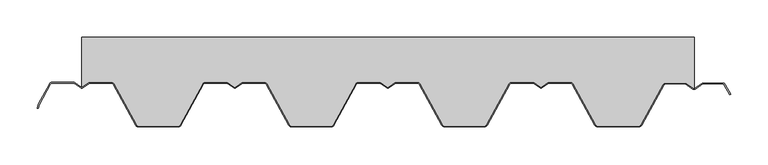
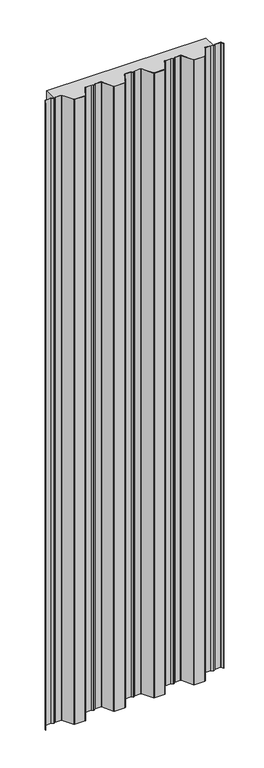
"""IFC4 building model written with IfcOpenShell, lengths in millimetres: plate geometry, HIANSA- H20.F10.001 - FORJADO COLABORANTE - MT-60 - Panel de Muro Cortina : -."""

from ifc_helpers import new_model, si_unit, point, frame_2d, origin, origin_with_axes, place, context, project, spatial, polyline, circle_curve, trimmed, segment, composite_curve, outline, extrude, source, transform, mapped, element, save


def plate_d779454f(model_context):
    return source(origin(), model_context, "Body", "SweptSolid", [
        extrude(outline(composite_curve([segment(polyline([(368.1728936, 56.6163306), (338.6988371, 2.7597639)]), True, "CONTINUOUS"), segment(trimmed(circle_curve(frame_2d((336.0671609, 4.2)), 3.0), [point((338.6988371, 2.7597639))], [point((336.0671609, 1.2))], False, "CARTESIAN"), True, "CONTINUOUS"), segment(polyline([(336.0671609, 1.2), (280.9575116, 1.2)]), True, "CONTINUOUS"), segment(trimmed(circle_curve(frame_2d((280.9575116, 4.2)), 3.0), [point((280.9575116, 1.2))], [point((278.3258353, 2.7597639))], False, "CARTESIAN"), True, "CONTINUOUS"), segment(polyline([(278.3258353, 2.7597639), (248.1950555, 57.8163306)]), True, "CONTINUOUS"), segment(trimmed(circle_curve(frame_2d((244.5107088, 55.8)), 4.2), [point((248.1950555, 57.8163306))], [point((244.5107088, 60.0))], True, "CARTESIAN"), True, "CONTINUOUS"), segment(polyline([(244.5107088, 60.0), (214.9999998, 60.0), (205.5734622, 53.4014236)]), True, "CONTINUOUS"), segment(trimmed(circle_curve(frame_2d((204.9999998, 54.2206556)), 1.0), [point((205.5734622, 53.4014236))], [point((204.4265375, 53.4014236))], False, "CARTESIAN"), True, "CONTINUOUS"), segment(polyline([(204.4265375, 53.4014236), (194.9999998, 60.0), (165.4892909, 60.0)]), True, "CONTINUOUS"), segment(trimmed(circle_curve(frame_2d((165.4892909, 55.8)), 4.2), [point((165.4892909, 60.0))], [point((161.8049442, 57.8163306))], True, "CARTESIAN"), True, "CONTINUOUS"), segment(polyline([(161.8049442, 57.8163306), (131.6741643, 2.7597639)]), True, "CONTINUOUS"), segment(trimmed(circle_curve(frame_2d((129.0424881, 4.2)), 3.0), [point((131.6741643, 2.7597639))], [point((129.0424881, 1.2))], False, "CARTESIAN"), True, "CONTINUOUS"), segment(polyline([(129.0424881, 1.2), (75.9575116, 1.2)]), True, "CONTINUOUS"), segment(trimmed(circle_curve(frame_2d((75.9575116, 4.2)), 3.0), [point((75.9575116, 1.2))], [point((73.3258353, 2.7597639))], False, "CARTESIAN"), True, "CONTINUOUS"), segment(polyline([(73.3258353, 2.7597639), (43.1950555, 57.8163306)]), True, "CONTINUOUS"), segment(trimmed(circle_curve(frame_2d((39.5107088, 55.8)), 4.2), [point((43.1950555, 57.8163306))], [point((39.5107088, 60.0))], True, "CARTESIAN"), True, "CONTINUOUS"), segment(polyline([(39.5107088, 60.0), (9.9999998, 60.0), (0.5734622, 53.4014236)]), True, "CONTINUOUS"), segment(trimmed(circle_curve(frame_2d((-2e-07, 54.2206556)), 1.0), [point((0.5734622, 53.4014236))], [point((-0.5734625, 53.4014236))], False, "CARTESIAN"), True, "CONTINUOUS"), segment(polyline([(-0.5734625, 53.4014236), (-10.0000002, 60.0), (-39.5107091, 60.0)]), True, "CONTINUOUS"), segment(trimmed(circle_curve(frame_2d((-39.5107091, 55.8)), 4.2), [point((-39.5107091, 60.0))], [point((-43.1950558, 57.8163306))], True, "CARTESIAN"), True, "CONTINUOUS"), segment(polyline([(-43.1950558, 57.8163306), (-73.3258357, 2.7597639)]), True, "CONTINUOUS"), segment(trimmed(circle_curve(frame_2d((-75.9575119, 4.2)), 3.0), [point((-73.3258357, 2.7597639))], [point((-75.9575119, 1.2))], False, "CARTESIAN"), True, "CONTINUOUS"), segment(polyline([(-75.9575119, 1.2), (-129.0424884, 1.2)]), True, "CONTINUOUS"), segment(trimmed(circle_curve(frame_2d((-129.0424884, 4.2)), 3.0), [point((-129.0424884, 1.2))], [point((-131.6741647, 2.7597639))], False, "CARTESIAN"), True, "CONTINUOUS"), segment(polyline([(-131.6741647, 2.7597639), (-161.8049445, 57.8163306)]), True, "CONTINUOUS"), segment(trimmed(circle_curve(frame_2d((-165.4892912, 55.8)), 4.2), [point((-161.8049445, 57.8163306))], [point((-165.4892912, 60.0))], True, "CARTESIAN"), True, "CONTINUOUS"), segment(polyline([(-165.4892912, 60.0), (-195.0000002, 60.0), (-204.4265378, 53.4014236)]), True, "CONTINUOUS"), segment(trimmed(circle_curve(frame_2d((-205.0000002, 54.2206556)), 1.0), [point((-204.4265378, 53.4014236))], [point((-205.5734625, 53.4014236))], False, "CARTESIAN"), True, "CONTINUOUS"), segment(polyline([(-205.5734625, 53.4014236), (-215.0000002, 60.0), (-244.5107091, 60.0)]), True, "CONTINUOUS"), segment(trimmed(circle_curve(frame_2d((-244.5107091, 55.8)), 4.2), [point((-244.5107091, 60.0))], [point((-248.1950558, 57.8163306))], True, "CARTESIAN"), True, "CONTINUOUS"), segment(polyline([(-248.1950558, 57.8163306), (-278.3258357, 2.7597639)]), True, "CONTINUOUS"), segment(trimmed(circle_curve(frame_2d((-280.9575119, 4.2)), 3.0), [point((-278.3258357, 2.7597639))], [point((-280.9575119, 1.2))], False, "CARTESIAN"), True, "CONTINUOUS"), segment(polyline([(-280.9575119, 1.2), (-334.0424884, 1.2)]), True, "CONTINUOUS"), segment(trimmed(circle_curve(frame_2d((-334.0424884, 4.2)), 3.0), [point((-334.0424884, 1.2))], [point((-336.6741647, 2.7597639))], False, "CARTESIAN"), True, "CONTINUOUS"), segment(polyline([(-336.6741647, 2.7597639), (-366.8049445, 57.8163306)]), True, "CONTINUOUS"), segment(trimmed(circle_curve(frame_2d((-370.4892912, 55.8)), 4.2), [point((-366.8049445, 57.8163306))], [point((-370.4892912, 60.0))], True, "CARTESIAN"), True, "CONTINUOUS"), segment(polyline([(-370.4892912, 60.0), (-400.0000002, 60.0), (-410.0000002, 53.0), (-410.0000002, 120.0), (409.9999998, 120.0), (409.9999998, 50.9943673), (398.849096, 58.8), (371.8572403, 58.8)]), True, "CONTINUOUS"), segment(trimmed(circle_curve(frame_2d((371.8572403, 54.6)), 4.2), [point((371.8572403, 58.8))], [point((368.1728936, 56.6163306))], True, "CARTESIAN"), True, "CONTINUOUS")], self_intersect=False)), origin_with_axes(), (0.0, 0.0, 1.0), 3390.8509027),
        extrude(outline(composite_curve([segment(trimmed(circle_curve(frame_2d((-449.5107091, 55.8)), 3.0), [point((-449.5107091, 58.8))], [point((-452.1423853, 57.2402361))], True, "CARTESIAN"), True, "CONTINUOUS"), segment(polyline([(-452.1423853, 57.2402361), (-467.1634429, 29.7929592), (-468.3384963, 24.9692365), (-469.5044021, 25.2532499), (-468.2919577, 30.2304669), (-453.1950558, 57.8163306)]), True, "CONTINUOUS"), segment(trimmed(circle_curve(frame_2d((-449.5107091, 55.8)), 4.2), [point((-453.1950558, 57.8163306))], [point((-449.5107091, 60.0))], False, "CARTESIAN"), True, "CONTINUOUS"), segment(polyline([(-449.5107091, 60.0), (-420.0000002, 60.0), (-410.5734625, 53.4014236)]), True, "CONTINUOUS"), segment(trimmed(circle_curve(frame_2d((-410.0000002, 54.2206556)), 1.0), [point((-410.5734625, 53.4014236))], [point((-409.4265378, 53.4014236))], True, "CARTESIAN"), True, "CONTINUOUS"), segment(polyline([(-409.4265378, 53.4014236), (-400.0000002, 60.0), (-370.4892912, 60.0)]), True, "CONTINUOUS"), segment(trimmed(circle_curve(frame_2d((-370.4892912, 55.8)), 4.2), [point((-370.4892912, 60.0))], [point((-366.8049445, 57.8163306))], False, "CARTESIAN"), True, "CONTINUOUS"), segment(polyline([(-366.8049445, 57.8163306), (-336.6741647, 2.7597639)]), True, "CONTINUOUS"), segment(trimmed(circle_curve(frame_2d((-334.0424884, 4.2)), 3.0), [point((-336.6741647, 2.7597639))], [point((-334.0424884, 1.2))], True, "CARTESIAN"), True, "CONTINUOUS"), segment(polyline([(-334.0424884, 1.2), (-280.9575119, 1.2)]), True, "CONTINUOUS"), segment(trimmed(circle_curve(frame_2d((-280.9575119, 4.2)), 3.0), [point((-280.9575119, 1.2))], [point((-278.3258357, 2.7597639))], True, "CARTESIAN"), True, "CONTINUOUS"), segment(polyline([(-278.3258357, 2.7597639), (-248.1950558, 57.8163306)]), True, "CONTINUOUS"), segment(trimmed(circle_curve(frame_2d((-244.5107091, 55.8)), 4.2), [point((-248.1950558, 57.8163306))], [point((-244.5107091, 60.0))], False, "CARTESIAN"), True, "CONTINUOUS"), segment(polyline([(-244.5107091, 60.0), (-215.0000002, 60.0), (-205.5734625, 53.4014236)]), True, "CONTINUOUS"), segment(trimmed(circle_curve(frame_2d((-205.0000002, 54.2206556)), 1.0), [point((-205.5734625, 53.4014236))], [point((-204.4265378, 53.4014236))], True, "CARTESIAN"), True, "CONTINUOUS"), segment(polyline([(-204.4265378, 53.4014236), (-195.0000002, 60.0), (-165.4892912, 60.0)]), True, "CONTINUOUS"), segment(trimmed(circle_curve(frame_2d((-165.4892912, 55.8)), 4.2), [point((-165.4892912, 60.0))], [point((-161.8049445, 57.8163306))], False, "CARTESIAN"), True, "CONTINUOUS"), segment(polyline([(-161.8049445, 57.8163306), (-131.6741647, 2.7597639)]), True, "CONTINUOUS"), segment(trimmed(circle_curve(frame_2d((-129.0424884, 4.2)), 3.0), [point((-131.6741647, 2.7597639))], [point((-129.0424884, 1.2))], True, "CARTESIAN"), True, "CONTINUOUS"), segment(polyline([(-129.0424884, 1.2), (-75.9575119, 1.2)]), True, "CONTINUOUS"), segment(trimmed(circle_curve(frame_2d((-75.9575119, 4.2)), 3.0), [point((-75.9575119, 1.2))], [point((-73.3258357, 2.7597639))], True, "CARTESIAN"), True, "CONTINUOUS"), segment(polyline([(-73.3258357, 2.7597639), (-43.1950558, 57.8163306)]), True, "CONTINUOUS"), segment(trimmed(circle_curve(frame_2d((-39.5107091, 55.8)), 4.2), [point((-43.1950558, 57.8163306))], [point((-39.5107091, 60.0))], False, "CARTESIAN"), True, "CONTINUOUS"), segment(polyline([(-39.5107091, 60.0), (-10.0000002, 60.0), (-0.5734625, 53.4014236)]), True, "CONTINUOUS"), segment(trimmed(circle_curve(frame_2d((-2e-07, 54.2206556)), 1.0), [point((-0.5734625, 53.4014236))], [point((0.5734622, 53.4014236))], True, "CARTESIAN"), True, "CONTINUOUS"), segment(polyline([(0.5734622, 53.4014236), (9.9999998, 60.0), (39.5107088, 60.0)]), True, "CONTINUOUS"), segment(trimmed(circle_curve(frame_2d((39.5107088, 55.8)), 4.2), [point((39.5107088, 60.0))], [point((43.1950555, 57.8163306))], False, "CARTESIAN"), True, "CONTINUOUS"), segment(polyline([(43.1950555, 57.8163306), (73.3258353, 2.7597639)]), True, "CONTINUOUS"), segment(trimmed(circle_curve(frame_2d((75.9575116, 4.2)), 3.0), [point((73.3258353, 2.7597639))], [point((75.9575116, 1.2))], True, "CARTESIAN"), True, "CONTINUOUS"), segment(polyline([(75.9575116, 1.2), (129.0424881, 1.2)]), True, "CONTINUOUS"), segment(trimmed(circle_curve(frame_2d((129.0424881, 4.2)), 3.0), [point((129.0424881, 1.2))], [point((131.6741643, 2.7597639))], True, "CARTESIAN"), True, "CONTINUOUS"), segment(polyline([(131.6741643, 2.7597639), (161.8049442, 57.8163306)]), True, "CONTINUOUS"), segment(trimmed(circle_curve(frame_2d((165.4892909, 55.8)), 4.2), [point((161.8049442, 57.8163306))], [point((165.4892909, 60.0))], False, "CARTESIAN"), True, "CONTINUOUS"), segment(polyline([(165.4892909, 60.0), (194.9999998, 60.0), (204.4265375, 53.4014236)]), True, "CONTINUOUS"), segment(trimmed(circle_curve(frame_2d((204.9999998, 54.2206556)), 1.0), [point((204.4265375, 53.4014236))], [point((205.5734622, 53.4014236))], True, "CARTESIAN"), True, "CONTINUOUS"), segment(polyline([(205.5734622, 53.4014236), (214.9999998, 60.0), (244.5107088, 60.0)]), True, "CONTINUOUS"), segment(trimmed(circle_curve(frame_2d((244.5107088, 55.8)), 4.2), [point((244.5107088, 60.0))], [point((248.1950555, 57.8163306))], False, "CARTESIAN"), True, "CONTINUOUS"), segment(polyline([(248.1950555, 57.8163306), (278.3258353, 2.7597639)]), True, "CONTINUOUS"), segment(trimmed(circle_curve(frame_2d((280.9575116, 4.2)), 3.0), [point((278.3258353, 2.7597639))], [point((280.9575116, 1.2))], True, "CARTESIAN"), True, "CONTINUOUS"), segment(polyline([(280.9575116, 1.2), (336.0671609, 1.2)]), True, "CONTINUOUS"), segment(trimmed(circle_curve(frame_2d((336.0671609, 4.2)), 3.0), [point((336.0671609, 1.2))], [point((338.6988371, 2.7597639))], True, "CARTESIAN"), True, "CONTINUOUS"), segment(polyline([(338.6988371, 2.7597639), (368.1728936, 56.6163306)]), True, "CONTINUOUS"), segment(trimmed(circle_curve(frame_2d((371.8572403, 54.6)), 4.2), [point((368.1728936, 56.6163306))], [point((371.8572403, 58.8))], False, "CARTESIAN"), True, "CONTINUOUS"), segment(polyline([(371.8572403, 58.8), (398.849096, 58.8), (409.0480523, 51.6607306)]), True, "CONTINUOUS"), segment(trimmed(circle_curve(frame_2d((409.9999998, 53.0206556)), 1.66), [point((409.0480523, 51.6607306))], [point((410.9519473, 51.6607306))], True, "CARTESIAN"), True, "CONTINUOUS"), segment(polyline([(410.9519473, 51.6607306), (421.1509036, 58.8), (448.1427593, 58.8)]), True, "CONTINUOUS"), segment(trimmed(circle_curve(frame_2d((448.1427593, 54.6)), 4.2), [point((448.1427593, 58.8))], [point((451.8271061, 56.6163306))], False, "CARTESIAN"), True, "CONTINUOUS"), segment(polyline([(451.8271061, 56.6163306), (459.0334279, 43.4485553), (457.9807574, 42.8724608), (450.7744356, 56.0402361)]), True, "CONTINUOUS"), segment(trimmed(circle_curve(frame_2d((448.1427593, 54.6)), 3.0), [point((450.7744356, 56.0402361))], [point((448.1427593, 57.6))], True, "CARTESIAN"), True, "CONTINUOUS"), segment(polyline([(448.1427593, 57.6), (421.5291703, 57.6), (411.6401021, 50.6776523)]), True, "CONTINUOUS"), segment(trimmed(circle_curve(frame_2d((409.9999998, 53.0206556)), 2.86), [point((411.6401021, 50.6776523))], [point((408.3598975, 50.6776523))], False, "CARTESIAN"), True, "CONTINUOUS"), segment(polyline([(408.3598975, 50.6776523), (398.4708293, 57.6), (371.8572403, 57.6)]), True, "CONTINUOUS"), segment(trimmed(circle_curve(frame_2d((371.8572403, 54.6)), 3.0), [point((371.8572403, 57.6))], [point((369.2255641, 56.0402361))], True, "CARTESIAN"), True, "CONTINUOUS"), segment(polyline([(369.2255641, 56.0402361), (339.7515076, 2.1836694)]), True, "CONTINUOUS"), segment(trimmed(circle_curve(frame_2d((336.0671609, 4.2)), 4.2), [point((339.7515076, 2.1836694))], [point((336.0671609, 0.0))], False, "CARTESIAN"), True, "CONTINUOUS"), segment(polyline([(336.0671609, 0.0), (280.9575116, 0.0)]), True, "CONTINUOUS"), segment(trimmed(circle_curve(frame_2d((280.9575116, 4.2)), 4.2), [point((280.9575116, 0.0))], [point((277.2731648, 2.1836694))], False, "CARTESIAN"), True, "CONTINUOUS"), segment(polyline([(277.2731648, 2.1836694), (247.142385, 57.2402361)]), True, "CONTINUOUS"), segment(trimmed(circle_curve(frame_2d((244.5107088, 55.8)), 3.0), [point((247.142385, 57.2402361))], [point((244.5107088, 58.8))], True, "CARTESIAN"), True, "CONTINUOUS"), segment(polyline([(244.5107088, 58.8), (215.3782665, 58.8), (206.261617, 52.4183453)]), True, "CONTINUOUS"), segment(trimmed(circle_curve(frame_2d((204.9999998, 54.2206556)), 2.2), [point((206.261617, 52.4183453))], [point((203.7383827, 52.4183453))], False, "CARTESIAN"), True, "CONTINUOUS"), segment(polyline([(203.7383827, 52.4183453), (194.6217332, 58.8), (165.4892909, 58.8)]), True, "CONTINUOUS"), segment(trimmed(circle_curve(frame_2d((165.4892909, 55.8)), 3.0), [point((165.4892909, 58.8))], [point((162.8576147, 57.2402361))], True, "CARTESIAN"), True, "CONTINUOUS"), segment(polyline([(162.8576147, 57.2402361), (132.7268348, 2.1836694)]), True, "CONTINUOUS"), segment(trimmed(circle_curve(frame_2d((129.0424881, 4.2)), 4.2), [point((132.7268348, 2.1836694))], [point((129.0424881, 0.0))], False, "CARTESIAN"), True, "CONTINUOUS"), segment(polyline([(129.0424881, 0.0), (75.9575116, 0.0)]), True, "CONTINUOUS"), segment(trimmed(circle_curve(frame_2d((75.9575116, 4.2)), 4.2), [point((75.9575116, 0.0))], [point((72.2731648, 2.1836694))], False, "CARTESIAN"), True, "CONTINUOUS"), segment(polyline([(72.2731648, 2.1836694), (42.142385, 57.2402361)]), True, "CONTINUOUS"), segment(trimmed(circle_curve(frame_2d((39.5107088, 55.8)), 3.0), [point((42.142385, 57.2402361))], [point((39.5107088, 58.8))], True, "CARTESIAN"), True, "CONTINUOUS"), segment(polyline([(39.5107088, 58.8), (10.3782665, 58.8), (1.261617, 52.4183453)]), True, "CONTINUOUS"), segment(trimmed(circle_curve(frame_2d((-2e-07, 54.2206556)), 2.2), [point((1.261617, 52.4183453))], [point((-1.2616173, 52.4183453))], False, "CARTESIAN"), True, "CONTINUOUS"), segment(polyline([(-1.2616173, 52.4183453), (-10.3782668, 58.8), (-39.5107091, 58.8)]), True, "CONTINUOUS"), segment(trimmed(circle_curve(frame_2d((-39.5107091, 55.8)), 3.0), [point((-39.5107091, 58.8))], [point((-42.1423853, 57.2402361))], True, "CARTESIAN"), True, "CONTINUOUS"), segment(polyline([(-42.1423853, 57.2402361), (-72.2731652, 2.1836694)]), True, "CONTINUOUS"), segment(trimmed(circle_curve(frame_2d((-75.9575119, 4.2)), 4.2), [point((-72.2731652, 2.1836694))], [point((-75.9575119, 0.0))], False, "CARTESIAN"), True, "CONTINUOUS"), segment(polyline([(-75.9575119, 0.0), (-129.0424884, 0.0)]), True, "CONTINUOUS"), segment(trimmed(circle_curve(frame_2d((-129.0424884, 4.2)), 4.2), [point((-129.0424884, 0.0))], [point((-132.7268352, 2.1836694))], False, "CARTESIAN"), True, "CONTINUOUS"), segment(polyline([(-132.7268352, 2.1836694), (-162.857615, 57.2402361)]), True, "CONTINUOUS"), segment(trimmed(circle_curve(frame_2d((-165.4892912, 55.8)), 3.0), [point((-162.857615, 57.2402361))], [point((-165.4892912, 58.8))], True, "CARTESIAN"), True, "CONTINUOUS"), segment(polyline([(-165.4892912, 58.8), (-194.6217335, 58.8), (-203.738383, 52.4183453)]), True, "CONTINUOUS"), segment(trimmed(circle_curve(frame_2d((-205.0000002, 54.2206556)), 2.2), [point((-203.738383, 52.4183453))], [point((-206.2616173, 52.4183453))], False, "CARTESIAN"), True, "CONTINUOUS"), segment(polyline([(-206.2616173, 52.4183453), (-215.3782668, 58.8), (-244.5107091, 58.8)]), True, "CONTINUOUS"), segment(trimmed(circle_curve(frame_2d((-244.5107091, 55.8)), 3.0), [point((-244.5107091, 58.8))], [point((-247.1423853, 57.2402361))], True, "CARTESIAN"), True, "CONTINUOUS"), segment(polyline([(-247.1423853, 57.2402361), (-277.2731652, 2.1836694)]), True, "CONTINUOUS"), segment(trimmed(circle_curve(frame_2d((-280.9575119, 4.2)), 4.2), [point((-277.2731652, 2.1836694))], [point((-280.9575119, 0.0))], False, "CARTESIAN"), True, "CONTINUOUS"), segment(polyline([(-280.9575119, 0.0), (-334.0424884, 0.0)]), True, "CONTINUOUS"), segment(trimmed(circle_curve(frame_2d((-334.0424884, 4.2)), 4.2), [point((-334.0424884, 0.0))], [point((-337.7268352, 2.1836694))], False, "CARTESIAN"), True, "CONTINUOUS"), segment(polyline([(-337.7268352, 2.1836694), (-367.857615, 57.2402361)]), True, "CONTINUOUS"), segment(trimmed(circle_curve(frame_2d((-370.4892912, 55.8)), 3.0), [point((-367.857615, 57.2402361))], [point((-370.4892912, 58.8))], True, "CARTESIAN"), True, "CONTINUOUS"), segment(polyline([(-370.4892912, 58.8), (-399.6217335, 58.8), (-408.738383, 52.4183453)]), True, "CONTINUOUS"), segment(trimmed(circle_curve(frame_2d((-410.0000002, 54.2206556)), 2.2), [point((-408.738383, 52.4183453))], [point((-411.2616173, 52.4183453))], False, "CARTESIAN"), True, "CONTINUOUS"), segment(polyline([(-411.2616173, 52.4183453), (-420.3782668, 58.8), (-449.5107091, 58.8)]), True, "CONTINUOUS")], self_intersect=False)), origin_with_axes(), (0.0, 0.0, 1.0), 3390.8509027),
    ])


if __name__ == "__main__":
    model = new_model("IFC4")
    model_context = context("Model", 3, world=origin())
    ifc_project = project(units=[si_unit("LENGTHUNIT", "METRE", prefix="MILLI")], contexts=[model_context])
    site = spatial("IfcSite", under=ifc_project)
    building = spatial("IfcBuilding", under=site)
    placement = place(None, origin())
    plate_shape = plate_d779454f(model_context)
    element("IfcPlate", 1, ObjectType="HIANSA- H20.F10.001 - FORJADO COLABORANTE - MT-60 - Panel de Muro Cortina : -", at=placement, inside=building, context=model_context, shape_type="MappedRepresentation", body=[
        mapped(plate_shape, transform((0.0, 0.0, 0.0), x_axis=(1.0, 0.0, 0.0), y_axis=(0.0, 1.0, 0.0), z_axis=(0.0, 0.0, 1.0))),
    ])
    save(model, "model.ifc")
